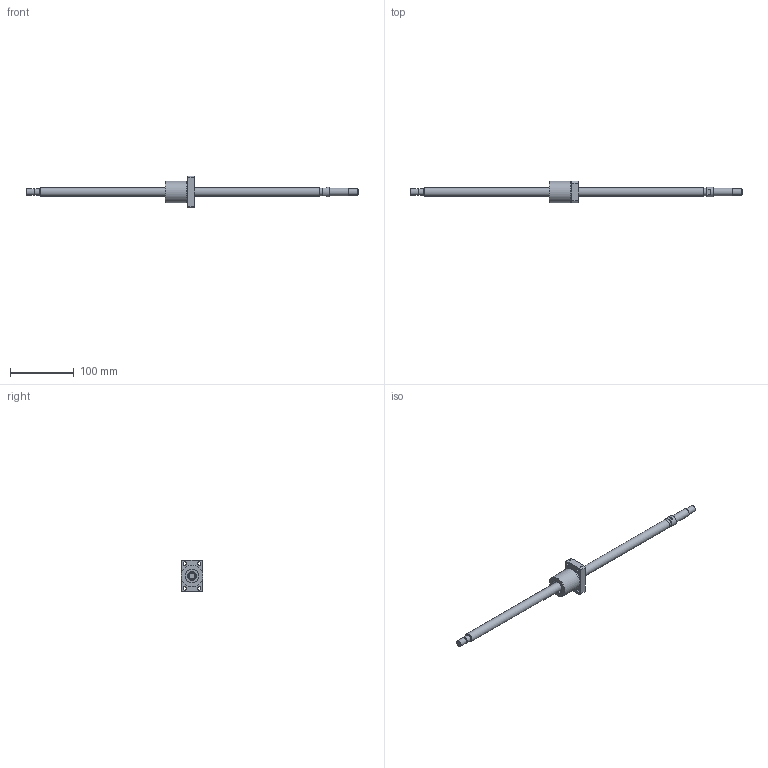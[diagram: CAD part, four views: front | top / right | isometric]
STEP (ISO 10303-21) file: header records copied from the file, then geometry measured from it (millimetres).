
FILE_DESCRIPTION(/* description */ ('STEP AP203'),/* implementation_level */ '2;1');
FILE_NAME(/* name */ 'BNK1408-2.5RRG0+521LC5Y(242.50)',/* time_stamp */ '2024-07-09T09:17:28+02:00',/* author */ ('License CC BY-ND 4.0'),/* organization */ ('CADENAS'),/* preprocessor_version */ 'ST-DEVELOPER v19.3',/* originating_system */ 'PARTsolutions',/* authorisation */ ' ');
FILE_SCHEMA (('CONFIG_CONTROL_DESIGN'));
Length unit declared in the file: millimetre
Products named in the file (3): BNK1408-2.5RRG0+521LC5Y(242.50); BNK 1408-2.5RRG0+521LC5Y Shaft; BNK 1408-2.5RRG0+521LC5YRR0 Nut
Assembly tree (2 placements, depth 2):
  BNK1408-2.5RRG0+521LC5Y(242.50)
    BNK 1408-2.5RRG0+521LC5Y Shaft
    BNK 1408-2.5RRG0+521LC5YRR0 Nut
Bounding box: 521 x 34 x 50 mm (x, y, z)
Volume: 114791.4 mm3; surface area: 34561.1 mm2
Topology: 2 solids, 2 shells, 74 faces, 159 edges, 102 vertices
Faces by surface type: plane 28, cylinder 27, cone 17, torus 2
Full cylindrical faces by diameter (mm): 4.917 x2, 5.5 x4, 9.5 x4, 9.6 x1, 10 x3, 12 x2, 14 x2, 15 x1, 21 x2, 33.4 x1, 34 x1
Entity records: 1940 total; most frequent: CARTESIAN_POINT 349, DIRECTION 336, ORIENTED_EDGE 242, AXIS2_PLACEMENT_3D 155, FACE_BOUND 134, EDGE_LOOP 133, EDGE_CURVE 121, VERTEX_POINT 99
